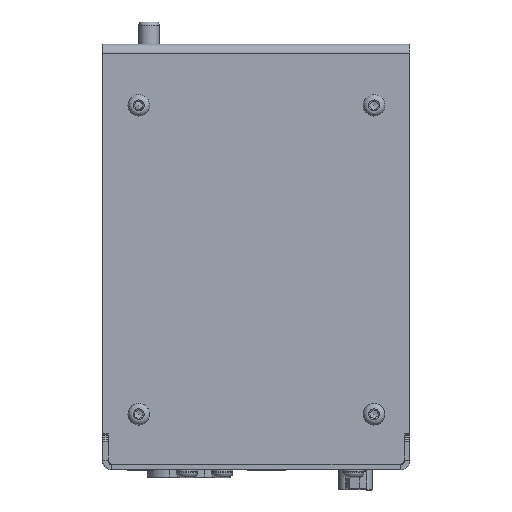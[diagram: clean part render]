
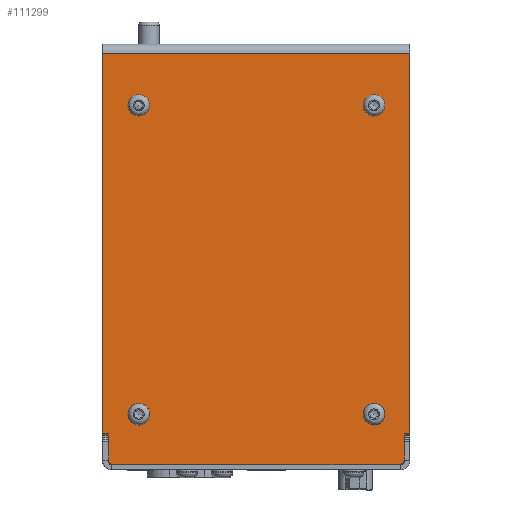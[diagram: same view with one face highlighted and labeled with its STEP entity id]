
A CAD part, front view. The second image highlights one B-rep face of the part: STEP entity #111299.
In plain terms, the highlighted planar face has unit normal (0.002, -1, 0).
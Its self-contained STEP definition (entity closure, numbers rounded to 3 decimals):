
#3702=FACE_BOUND('',#41312,.T.);
#3703=FACE_BOUND('',#41313,.T.);
#3704=FACE_BOUND('',#41314,.T.);
#3705=FACE_BOUND('',#41315,.T.);
#6332=PLANE('',#118234);
#8374=LINE('',#147259,#20071);
#8376=LINE('',#147265,#20073);
#8717=LINE('',#148895,#20414);
#14565=LINE('',#169260,#26262);
#14568=LINE('',#169264,#26265);
#14595=LINE('',#169323,#26292);
#14599=LINE('',#169331,#26296);
#14602=LINE('',#169336,#26299);
#14608=LINE('',#169353,#26305);
#14609=LINE('',#169354,#26306);
#20071=VECTOR('',#121723,10.);
#20073=VECTOR('',#121727,10.);
#20414=VECTOR('',#122820,10.);
#26262=VECTOR('',#135908,10.);
#26265=VECTOR('',#135913,10.);
#26292=VECTOR('',#135972,10.);
#26296=VECTOR('',#135980,10.);
#26299=VECTOR('',#135985,10.);
#26305=VECTOR('',#136011,10.);
#26306=VECTOR('',#136012,10.);
#35279=FACE_OUTER_BOUND('',#41311,.T.);
#41311=EDGE_LOOP('',(#89177,#89178,#89179,#89180,#89181,#89182,#89183,#89184,
#89185,#89186,#89187,#89188));
#41312=EDGE_LOOP('',(#89189));
#41313=EDGE_LOOP('',(#89190));
#41314=EDGE_LOOP('',(#89191));
#41315=EDGE_LOOP('',(#89192));
#45546=CIRCLE('',#118229,1.5);
#45549=CIRCLE('',#118235,1.5);
#45550=CIRCLE('',#118236,3.);
#45551=CIRCLE('',#118237,3.);
#45552=CIRCLE('',#118238,3.);
#45553=CIRCLE('',#118239,3.);
#46518=VERTEX_POINT('',#147254);
#46519=VERTEX_POINT('',#147257);
#46520=VERTEX_POINT('',#147261);
#46522=VERTEX_POINT('',#147264);
#46641=VERTEX_POINT('',#147693);
#46888=VERTEX_POINT('',#148894);
#51525=VERTEX_POINT('',#169237);
#51530=VERTEX_POINT('',#169248);
#51534=VERTEX_POINT('',#169258);
#51549=VERTEX_POINT('',#169318);
#51552=VERTEX_POINT('',#169330);
#51553=VERTEX_POINT('',#169335);
#51555=VERTEX_POINT('',#169355);
#51556=VERTEX_POINT('',#169357);
#51557=VERTEX_POINT('',#169359);
#51558=VERTEX_POINT('',#169361);
#57058=EDGE_CURVE('',#46519,#46518,#8374,.T.);
#57060=EDGE_CURVE('',#46522,#46520,#8376,.T.);
#57627=EDGE_CURVE('',#46888,#46641,#8717,.T.);
#65028=EDGE_CURVE('',#51534,#51525,#14565,.T.);
#65031=EDGE_CURVE('',#51530,#51525,#14568,.T.);
#65064=EDGE_CURVE('',#51530,#51549,#14595,.T.);
#65068=EDGE_CURVE('',#51534,#51552,#14599,.T.);
#65071=EDGE_CURVE('',#51553,#51549,#14602,.T.);
#65077=EDGE_CURVE('',#46522,#46641,#45546,.T.);
#65080=EDGE_CURVE('',#46888,#46519,#45549,.T.);
#65081=EDGE_CURVE('',#46520,#51553,#14608,.T.);
#65082=EDGE_CURVE('',#51552,#46518,#14609,.T.);
#65083=EDGE_CURVE('',#51555,#51555,#45550,.T.);
#65084=EDGE_CURVE('',#51556,#51556,#45551,.T.);
#65085=EDGE_CURVE('',#51557,#51557,#45552,.T.);
#65086=EDGE_CURVE('',#51558,#51558,#45553,.T.);
#89177=ORIENTED_EDGE('',*,*,#65080,.F.);
#89178=ORIENTED_EDGE('',*,*,#57627,.T.);
#89179=ORIENTED_EDGE('',*,*,#65077,.F.);
#89180=ORIENTED_EDGE('',*,*,#57060,.T.);
#89181=ORIENTED_EDGE('',*,*,#65081,.T.);
#89182=ORIENTED_EDGE('',*,*,#65071,.T.);
#89183=ORIENTED_EDGE('',*,*,#65064,.F.);
#89184=ORIENTED_EDGE('',*,*,#65031,.T.);
#89185=ORIENTED_EDGE('',*,*,#65028,.F.);
#89186=ORIENTED_EDGE('',*,*,#65068,.T.);
#89187=ORIENTED_EDGE('',*,*,#65082,.T.);
#89188=ORIENTED_EDGE('',*,*,#57058,.F.);
#89189=ORIENTED_EDGE('',*,*,#65083,.T.);
#89190=ORIENTED_EDGE('',*,*,#65084,.T.);
#89191=ORIENTED_EDGE('',*,*,#65085,.T.);
#89192=ORIENTED_EDGE('',*,*,#65086,.T.);
#111299=ADVANCED_FACE('',(#35279,#3702,#3703,#3704,#3705),#6332,.T.);
#118229=AXIS2_PLACEMENT_3D('',#169346,#135997,#135998);
#118234=AXIS2_PLACEMENT_3D('',#169351,#136007,#136008);
#118235=AXIS2_PLACEMENT_3D('',#169352,#136009,#136010);
#118236=AXIS2_PLACEMENT_3D('',#169356,#136013,#136014);
#118237=AXIS2_PLACEMENT_3D('',#169358,#136015,#136016);
#118238=AXIS2_PLACEMENT_3D('',#169360,#136017,#136018);
#118239=AXIS2_PLACEMENT_3D('',#169362,#136019,#136020);
#121723=DIRECTION('',(0.,0.,1.));
#121727=DIRECTION('',(0.,0.,1.));
#122820=DIRECTION('',(1.,0.002,0.));
#135908=DIRECTION('',(0.,0.,1.));
#135913=DIRECTION('',(-1.,-0.002,0.));
#135972=DIRECTION('',(0.,0.,-1.));
#135980=DIRECTION('',(1.,0.002,0.));
#135985=DIRECTION('',(1.,0.002,0.));
#135997=DIRECTION('center_axis',(-0.002,1.,
0.));
#135998=DIRECTION('ref_axis',(0.707,0.001,-0.707));
#136007=DIRECTION('center_axis',(0.002,-1.,
0.));
#136008=DIRECTION('ref_axis',(1.,0.002,0.));
#136009=DIRECTION('center_axis',(-0.002,1.,
0.));
#136010=DIRECTION('ref_axis',(-0.707,-0.001,-0.707));
#136011=DIRECTION('',(0.,0.,1.));
#136012=DIRECTION('',(0.,0.,-1.));
#136013=DIRECTION('center_axis',(-0.002,1.,
0.));
#136014=DIRECTION('ref_axis',(-1.,-0.002,0.));
#136015=DIRECTION('center_axis',(-0.002,1.,
0.));
#136016=DIRECTION('ref_axis',(-1.,-0.002,0.));
#136017=DIRECTION('center_axis',(-0.002,1.,
0.));
#136018=DIRECTION('ref_axis',(-1.,-0.002,0.));
#136019=DIRECTION('center_axis',(-0.002,1.,
0.));
#136020=DIRECTION('ref_axis',(-1.,-0.002,0.));
#147254=CARTESIAN_POINT('',(-201.604,92.447,25.491));
#147257=CARTESIAN_POINT('',(-201.604,92.447,20.491));
#147259=CARTESIAN_POINT('',(-201.604,92.447,17.391));
#147261=CARTESIAN_POINT('',(-119.104,92.618,25.491));
#147264=CARTESIAN_POINT('',(-119.104,92.618,20.491));
#147265=CARTESIAN_POINT('',(-119.104,92.618,17.391));
#147693=CARTESIAN_POINT('',(-120.604,92.615,18.991));
#148894=CARTESIAN_POINT('',(-200.104,92.45,18.991));
#148895=CARTESIAN_POINT('',(-117.604,92.621,18.991));
#169237=CARTESIAN_POINT('',(-203.104,92.444,133.491));
#169248=CARTESIAN_POINT('',(-117.604,92.621,133.491));
#169258=CARTESIAN_POINT('',(-203.104,92.444,27.491));
#169260=CARTESIAN_POINT('',(-203.104,92.444,136.091));
#169264=CARTESIAN_POINT('',(-160.354,92.532,133.491));
#169318=CARTESIAN_POINT('',(-117.604,92.621,27.491));
#169323=CARTESIAN_POINT('',(-117.604,92.621,133.491));
#169330=CARTESIAN_POINT('',(-201.604,92.447,27.491));
#169331=CARTESIAN_POINT('',(-180.979,92.49,27.491));
#169335=CARTESIAN_POINT('',(-119.104,92.618,27.491));
#169336=CARTESIAN_POINT('',(-138.979,92.577,27.491));
#169346=CARTESIAN_POINT('Origin',(-120.604,92.615,20.491));
#169351=CARTESIAN_POINT('Origin',(-160.354,92.532,77.541));
#169352=CARTESIAN_POINT('Origin',(-200.104,92.45,20.491));
#169353=CARTESIAN_POINT('',(-119.104,92.618,52.516));
#169354=CARTESIAN_POINT('',(-201.604,92.447,48.266));
#169355=CARTESIAN_POINT('',(-190.104,92.471,32.991));
#169356=CARTESIAN_POINT('Origin',(-193.104,92.464,32.991));
#169357=CARTESIAN_POINT('',(-124.604,92.607,118.991));
#169358=CARTESIAN_POINT('Origin',(-127.604,92.6,118.991));
#169359=CARTESIAN_POINT('',(-190.104,92.471,118.991));
#169360=CARTESIAN_POINT('Origin',(-193.104,92.464,118.991));
#169361=CARTESIAN_POINT('',(-124.604,92.607,32.991));
#169362=CARTESIAN_POINT('Origin',(-127.604,92.6,32.991));
